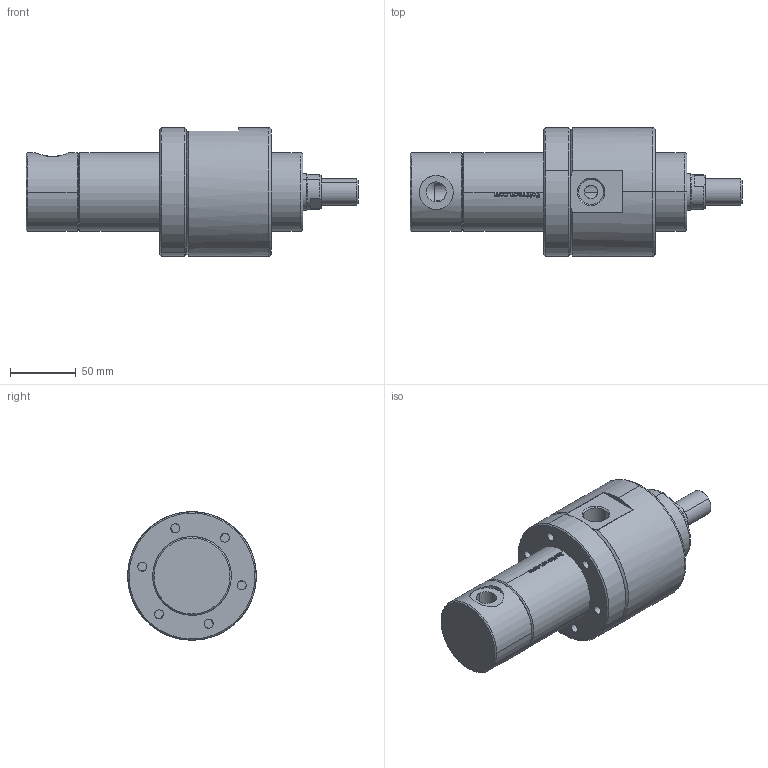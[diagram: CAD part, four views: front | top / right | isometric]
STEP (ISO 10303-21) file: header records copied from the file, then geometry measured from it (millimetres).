
FILE_DESCRIPTION (( 'STEP AP214' ), '1' );
FILE_NAME ('KHCC_50_28_25_WEB.STEP', '2020-12-15T11:38:56', ( '' ), ( '' ), 'SwSTEP 2.0', 'SolidWorks 2021', '' );
FILE_SCHEMA (( 'AUTOMOTIVE_DESIGN' ));
Length unit declared in the file: millimetre
Products named in the file (9): 50_H.BORU_WEB; K06-28X38_2X5_3X7; 28_K_MIL_WEB; 50_28_烰_KAPAK; K32-28X38X6; KHCC_50_28_25_WEB; 50_28_gerdirme_flans; TYAK_50_60
Assembly tree (8 placements, depth 3):
  KHCC_50_28_25_WEB
    50_28_烰_KAPAK
      50_28_烰_KAPAK
      K06-28X38_2X5_3X7
      K32-28X38X6
      50_28_gerdirme_flans
    50_H.BORU_WEB
    28_K_MIL_WEB
    TYAK_50_60
Bounding box: 253 x 98 x 98 mm (x, y, z)
Volume: 767976.6 mm3; surface area: 145292.4 mm2
Topology: 7 solids, 7 shells, 468 faces, 1110 edges, 690 vertices
Faces by surface type: bspline 165, plane 120, cylinder 113, cone 66, torus 4
Entity records: 20644 total; most frequent: CARTESIAN_POINT 8588, ORIENTED_EDGE 2220, DIRECTION 1674, EDGE_CURVE 1110, VERTEX_POINT 690, AXIS2_PLACEMENT_3D 621, EDGE_LOOP 540, FACE_OUTER_BOUND 468
